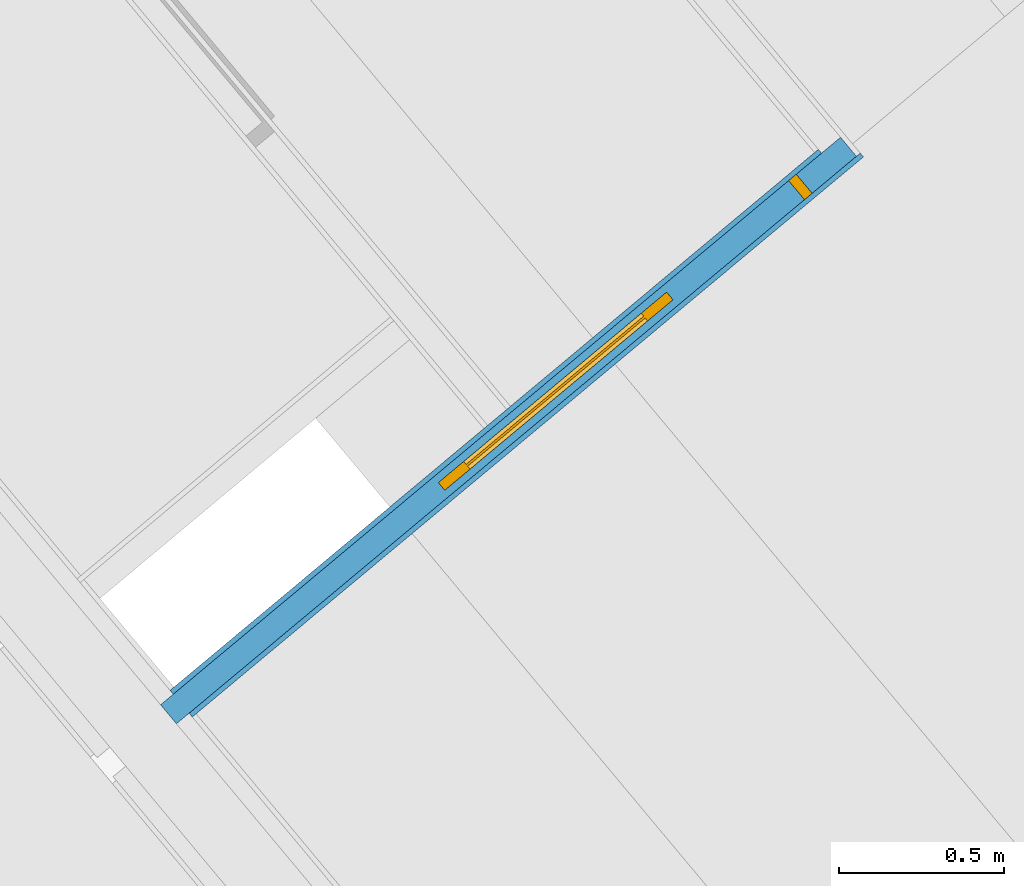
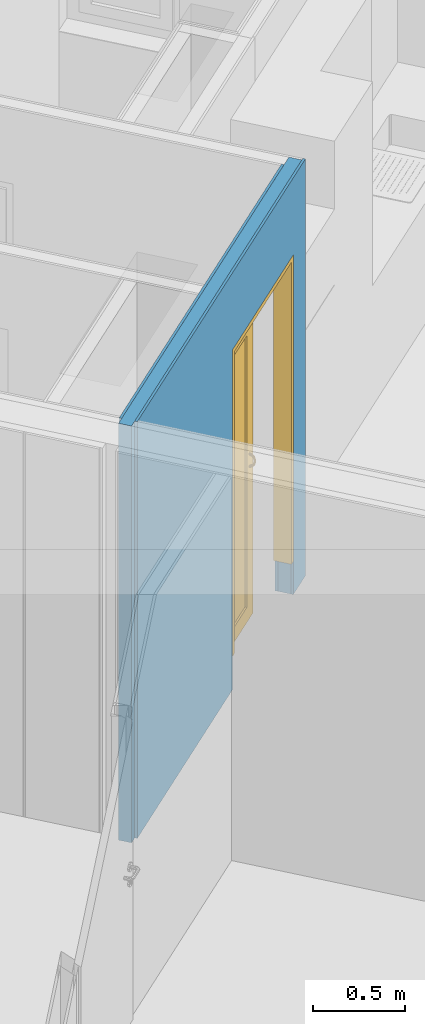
# One storey, part 13 of 67: 3 building element parts, 1 door, 1 opening, 1 element without a shape of its own.
"""IFC4 building model written with IfcOpenShell, lengths in metres."""

from ifc_helpers import new_model, entity, si_unit, converted_unit, derived_unit, direction, frame, origin_with_axes, place, context, subcontext, project, spatial, polygons, source, transform, mapped, material, type_object, element, fill, aggregate, save


model = new_model("IFC4")

# Units and contexts
model_context = context("Model", 3, precision=1e-05, world=origin_with_axes(), true_north=direction((0.0, 1.0)))
body_context = subcontext(model_context, "Body", "Model", "MODEL_VIEW")
ifc_project = project(units=[si_unit("LENGTHUNIT", "METRE"), si_unit("AREAUNIT", "SQUARE_METRE"), si_unit("VOLUMEUNIT", "CUBIC_METRE"), converted_unit("PLANEANGLEUNIT", "DEGREE", entity("IfcPlaneAngleMeasure", 0.0174532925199), si_unit("PLANEANGLEUNIT", "RADIAN"), dimensions=[0, 0, 0, 0, 0, 0, 0]), converted_unit("TIMEUNIT", "Year", entity("IfcTimeMeasure", 31556926.0), si_unit("TIMEUNIT", "SECOND"), dimensions=[0, 0, 1, 0, 0, 0, 0]), si_unit("MASSUNIT", "GRAM", prefix="KILO"), si_unit("THERMODYNAMICTEMPERATUREUNIT", "DEGREE_CELSIUS"), si_unit("LUMINOUSINTENSITYUNIT", "LUMEN"), si_unit("ENERGYUNIT", "JOULE", prefix="MEGA"), derived_unit("THERMALCONDUCTANCEUNIT", [(si_unit("POWERUNIT", "WATT"), 1), (si_unit("LENGTHUNIT", "METRE"), -1), (si_unit("THERMODYNAMICTEMPERATUREUNIT", "KELVIN"), -1)]), derived_unit("SPECIFICHEATCAPACITYUNIT", [(si_unit("ENERGYUNIT", "JOULE"), 1), (si_unit("MASSUNIT", "GRAM", prefix="KILO"), -1), (si_unit("THERMODYNAMICTEMPERATUREUNIT", "KELVIN"), -1)]), derived_unit("MASSDENSITYUNIT", [(si_unit("MASSUNIT", "GRAM", prefix="KILO"), 1), (si_unit("VOLUMEUNIT", "CUBIC_METRE"), -1)])], contexts=[model_context])

# Site, building, storey
site_placement = place(None, frame((-0.00153261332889, -0.00661245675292, 0.0), z_axis=(0.0, 0.0, 1.0), x_axis=(1.0, 0.0, 0.0)))
site = spatial("IfcSite", under=ifc_project, at=site_placement, Name="Site", CompositionType="ELEMENT")
building_placement = place(site_placement, origin_with_axes())
building = spatial("IfcBuilding", under=site, at=building_placement, Name="Building", CompositionType="ELEMENT")
storey_placement = place(building_placement, frame((0.0, 0.0, -0.22), z_axis=(0.0, 0.0, 1.0), x_axis=(1.0, 0.0, 0.0)))
storey = spatial("IfcBuildingStorey", under=building, at=storey_placement, Name="EG", CompositionType="ELEMENT", Elevation=-0.22)

# Door
door_type = type_object("IfcDoorType", Name="Schiebetür 02 1-Fl 26", OperationType="SLIDING_TO_RIGHT", PredefinedType="NOTDEFINED")
shared_shape = source(origin_with_axes(), body_context, "Body", "Tessellation", [
    polygons([(-0.48, 0.0, 0.0), (-0.48, 0.0, 2.03), (0.48, 0.0, 2.03), (0.48, 0.0, 0.0), (0.45, 0.0, 0.0), (0.45, 0.0, 2.0), (-0.45, 0.0, 2.0), (-0.45, 0.0, 0.0)], [[[1, 2, 3, 4, 5, 6, 7, 8]]], closed=False),
    polygons([(-0.45, -0.09, 0.0), (-0.45, -0.09, 2.0), (-0.45, -0.105, 2.0), (-0.45, -0.105, 0.0), (-0.48, -0.09, 0.0), (-0.48, -0.09, 2.0), (-0.48, -0.015, 2.0), (-0.45, -0.015, 2.0), (-0.45, 0.0, 2.0), (0.45, 0.0, 2.0), (0.45, -0.105, 2.0), (0.48, -0.105, 0.0), (0.48, -0.105, 2.03), (-0.48, -0.105, 2.03), (-0.48, -0.105, 0.0), (0.45, -0.105, 0.0), (-0.48, 0.0, 2.03), (-0.48, 0.0, 0.0), (-0.48, -0.015, 0.0), (-0.45, -0.015, 0.0), (-0.45, 0.0, 0.0), (0.48, 0.0, 2.03), (0.48, 0.0, 0.0), (0.45, 0.0, 0.0)], [[[1, 2, 3, 4]], [[2, 1, 5, 6]], [[2, 6, 7, 8, 9, 10, 11, 3]], [[12, 13, 14, 15, 4, 3, 11, 16]], [[5, 1, 4, 15]], [[6, 5, 15, 14, 17, 18, 19, 7]], [[20, 8, 7, 19]], [[8, 20, 21, 9]], [[10, 9, 21, 18, 17, 22, 23, 24]], [[24, 16, 11, 10]], [[22, 13, 12, 23]], [[17, 14, 13, 22]], [[23, 12, 16, 24]], [[20, 19, 18, 21]]], closed=True),
    polygons([(-0.48, -0.105, 0.0), (-0.48, -0.105, 2.03), (0.48, -0.105, 2.03), (0.48, -0.105, 0.0), (0.45, -0.105, 0.0), (0.45, -0.105, 2.0), (-0.45, -0.105, 2.0), (-0.45, -0.105, 0.0)], [[[1, 2, 3, 4, 5, 6, 7, 8]]], closed=False),
    polygons([(-0.94995, -0.0375, 0.1), (-0.84995, -0.0375, 0.1), (-0.84995, -0.0675, 0.1), (-0.94995, -0.0675, 0.1), (-0.94995, -0.0375, 1.8999), (-0.84995, -0.0375, 1.8999), (-0.84995, -0.0675, 1.8999), (-0.94995, -0.0675, 1.8999)], [[[1, 2, 3, 4]], [[1, 5, 6, 2]], [[2, 6, 7, 3]], [[4, 3, 7, 8]], [[5, 1, 4, 8]], [[6, 5, 8, 7]]], closed=True),
    polygons([(-0.05005, -0.0375, 1.8999), (-0.15005, -0.0375, 1.8999), (-0.15005, -0.0675, 1.8999), (-0.05005, -0.0675, 1.8999), (-0.05005, -0.0375, 0.1), (-0.15005, -0.0375, 0.1), (-0.15005, -0.0675, 0.1), (-0.05005, -0.0675, 0.1)], [[[1, 2, 3, 4]], [[1, 5, 6, 2]], [[2, 6, 7, 3]], [[4, 3, 7, 8]], [[5, 1, 4, 8]], [[6, 5, 8, 7]]], closed=True),
    polygons([(-0.05005, -0.0375, 0.0), (-0.05005, -0.0375, 0.1), (-0.05005, -0.0675, 0.1), (-0.05005, -0.0675, 0.0), (-0.94995, -0.0375, 0.0), (-0.94995, -0.0375, 0.1), (-0.84995, -0.0375, 0.1), (-0.15005, -0.0375, 0.1), (-0.15005, -0.0675, 0.1), (-0.84995, -0.0675, 0.1), (-0.94995, -0.0675, 0.1), (-0.94995, -0.0675, 0.0)], [[[1, 2, 3, 4]], [[1, 5, 6, 7, 8, 2]], [[2, 8, 9, 3]], [[4, 3, 9, 10, 11, 12]], [[5, 1, 4, 12]], [[6, 5, 12, 11]], [[7, 6, 11, 10]], [[8, 7, 10, 9]]], closed=True),
    polygons([(-0.94995, -0.0375, 1.9999), (-0.94995, -0.0375, 1.8999), (-0.94995, -0.0675, 1.8999), (-0.94995, -0.0675, 1.9999), (-0.05005, -0.0375, 1.9999), (-0.05005, -0.0375, 1.8999), (-0.15005, -0.0375, 1.8999), (-0.84995, -0.0375, 1.8999), (-0.84995, -0.0675, 1.8999), (-0.15005, -0.0675, 1.8999), (-0.05005, -0.0675, 1.8999), (-0.05005, -0.0675, 1.9999)], [[[1, 2, 3, 4]], [[1, 5, 6, 7, 8, 2]], [[2, 8, 9, 3]], [[4, 3, 9, 10, 11, 12]], [[5, 1, 4, 12]], [[6, 5, 12, 11]], [[7, 6, 11, 10]], [[8, 7, 10, 9]]], closed=True),
    polygons([(-0.84995, -0.049, 0.1), (-0.15005, -0.049, 0.1), (-0.15005, -0.056, 0.1), (-0.84995, -0.056, 0.1), (-0.84995, -0.049, 1.8999), (-0.15005, -0.049, 1.8999), (-0.15005, -0.056, 1.8999), (-0.84995, -0.056, 1.8999)], [[[1, 2, 3, 4]], [[1, 5, 6, 2]], [[2, 6, 7, 3]], [[4, 3, 7, 8]], [[5, 1, 4, 8]], [[6, 5, 8, 7]]], closed=True),
    polygons([(-0.11705, -0.0825, 1.08598076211), (-0.116112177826, -0.08425, 1.08901185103), (-0.116112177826, -0.0675, 1.0935), (-0.11705, -0.0675, 1.09), (-0.11705, -0.0934807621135, 1.075), (-0.116112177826, -0.0965118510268, 1.07675), (-0.11355, -0.0855310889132, 1.09123076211), (-0.11355, -0.0675, 1.09606217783), (-0.11005, -0.0675, 1.097), (-0.10655, -0.0675, 1.09606217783), (-0.103987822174, -0.0675, 1.0935), (-0.10305, -0.0675, 1.09), (-0.103987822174, -0.0675, 1.0865), (-0.10655, -0.0675, 1.08393782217), (-0.11005, -0.0675, 1.083), (-0.11355, -0.0675, 1.08393782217), (-0.116112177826, -0.0675, 1.0865), (-0.116112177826, -0.08075, 1.0829496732), (-0.11705, -0.0975, 1.06), (-0.116112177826, -0.101, 1.06), (-0.11355, -0.0987307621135, 1.07803108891), (-0.116112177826, -0.0904496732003, 1.07325), (-0.11005, -0.086, 1.09204293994), (-0.10655, -0.0855310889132, 1.09123076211), (-0.103987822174, -0.08425, 1.08901185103), (-0.10305, -0.0825, 1.08598076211), (-0.103987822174, -0.08075, 1.0829496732), (-0.10655, -0.0794689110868, 1.08073076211), (-0.11005, -0.079, 1.07991858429), (-0.11355, -0.0794689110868, 1.08073076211), (-0.116112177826, -0.094, 1.06), (-0.11355, -0.0914378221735, 1.06), (-0.11005, -0.0905, 1.06), (-0.10655, -0.0914378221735, 1.06), (-0.103987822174, -0.094, 1.06), (-0.10305, -0.0975, 1.06), (-0.103987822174, -0.101, 1.06), (-0.10655, -0.103562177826, 1.06), (-0.11005, -0.1045, 1.06), (-0.11355, -0.103562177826, 1.06), (-0.11005, -0.09954293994, 1.0785), (-0.11355, -0.0882307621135, 1.07196891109), (-0.10655, -0.0987307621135, 1.07803108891), (-0.103987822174, -0.0965118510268, 1.07675), (-0.10305, -0.0934807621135, 1.075), (-0.103987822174, -0.0904496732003, 1.07325), (-0.10655, -0.0882307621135, 1.07196891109), (-0.11005, -0.087418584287, 1.0715)], [[[1, 2, 3, 4]], [[5, 6, 2, 1]], [[2, 7, 8, 3]], [[4, 3, 8, 9, 10, 11, 12, 13, 14, 15, 16, 17]], [[18, 1, 4, 17]], [[19, 20, 6, 5]], [[6, 21, 7, 2]], [[22, 5, 1, 18]], [[7, 23, 9, 8]], [[23, 24, 10, 9]], [[24, 25, 11, 10]], [[25, 26, 12, 11]], [[26, 27, 13, 12]], [[27, 28, 14, 13]], [[28, 29, 15, 14]], [[29, 30, 16, 15]], [[30, 18, 17, 16]], [[19, 31, 32, 33, 34, 35, 36, 37, 38, 39, 40, 20]], [[20, 40, 21, 6]], [[31, 19, 5, 22]], [[21, 41, 23, 7]], [[42, 22, 18, 30]], [[41, 43, 24, 23]], [[43, 44, 25, 24]], [[44, 45, 26, 25]], [[45, 46, 27, 26]], [[46, 47, 28, 27]], [[47, 48, 29, 28]], [[48, 42, 30, 29]], [[32, 31, 22, 42]], [[33, 32, 42, 48]], [[34, 33, 48, 47]], [[35, 34, 47, 46]], [[36, 35, 46, 45]], [[37, 36, 45, 44]], [[38, 37, 44, 43]], [[39, 38, 43, 41]], [[40, 39, 41, 21]]], closed=True),
    polygons([(-0.10305, -0.0825, 1.01401923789), (-0.103987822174, -0.08425, 1.01098814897), (-0.103987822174, -0.0675, 1.0065), (-0.10305, -0.0675, 1.01), (-0.10305, -0.0934807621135, 1.025), (-0.103987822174, -0.0965118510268, 1.02325), (-0.10655, -0.0855310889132, 1.00876923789), (-0.10655, -0.0675, 1.00393782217), (-0.11005, -0.0675, 1.003), (-0.11355, -0.0675, 1.00393782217), (-0.116112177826, -0.0675, 1.0065), (-0.11705, -0.0675, 1.01), (-0.116112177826, -0.0675, 1.0135), (-0.11355, -0.0675, 1.01606217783), (-0.11005, -0.0675, 1.017), (-0.10655, -0.0675, 1.01606217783), (-0.103987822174, -0.0675, 1.0135), (-0.103987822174, -0.08075, 1.0170503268), (-0.10305, -0.0975, 1.04), (-0.103987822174, -0.101, 1.04), (-0.10655, -0.0987307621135, 1.02196891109), (-0.103987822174, -0.0904496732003, 1.02675), (-0.11005, -0.086, 1.00795706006), (-0.11355, -0.0855310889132, 1.00876923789), (-0.116112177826, -0.08425, 1.01098814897), (-0.11705, -0.0825, 1.01401923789), (-0.116112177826, -0.08075, 1.0170503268), (-0.11355, -0.0794689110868, 1.01926923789), (-0.11005, -0.079, 1.02008141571), (-0.10655, -0.0794689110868, 1.01926923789), (-0.103987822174, -0.094, 1.04), (-0.10655, -0.0914378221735, 1.04), (-0.11005, -0.0905, 1.04), (-0.11355, -0.0914378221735, 1.04), (-0.116112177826, -0.094, 1.04), (-0.11705, -0.0975, 1.04), (-0.116112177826, -0.101, 1.04), (-0.11355, -0.103562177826, 1.04), (-0.11005, -0.1045, 1.04), (-0.10655, -0.103562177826, 1.04), (-0.11005, -0.09954293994, 1.0215), (-0.10655, -0.0882307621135, 1.02803108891), (-0.11355, -0.0987307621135, 1.02196891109), (-0.116112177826, -0.0965118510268, 1.02325), (-0.11705, -0.0934807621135, 1.025), (-0.116112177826, -0.0904496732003, 1.02675), (-0.11355, -0.0882307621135, 1.02803108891), (-0.11005, -0.087418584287, 1.0285)], [[[1, 2, 3, 4]], [[5, 6, 2, 1]], [[2, 7, 8, 3]], [[4, 3, 8, 9, 10, 11, 12, 13, 14, 15, 16, 17]], [[18, 1, 4, 17]], [[19, 20, 6, 5]], [[6, 21, 7, 2]], [[22, 5, 1, 18]], [[7, 23, 9, 8]], [[23, 24, 10, 9]], [[24, 25, 11, 10]], [[25, 26, 12, 11]], [[26, 27, 13, 12]], [[27, 28, 14, 13]], [[28, 29, 15, 14]], [[29, 30, 16, 15]], [[30, 18, 17, 16]], [[19, 31, 32, 33, 34, 35, 36, 37, 38, 39, 40, 20]], [[20, 40, 21, 6]], [[31, 19, 5, 22]], [[21, 41, 23, 7]], [[42, 22, 18, 30]], [[41, 43, 24, 23]], [[43, 44, 25, 24]], [[44, 45, 26, 25]], [[45, 46, 27, 26]], [[46, 47, 28, 27]], [[47, 48, 29, 28]], [[48, 42, 30, 29]], [[32, 31, 22, 42]], [[33, 32, 42, 48]], [[34, 33, 48, 47]], [[35, 34, 47, 46]], [[36, 35, 46, 45]], [[37, 36, 45, 44]], [[38, 37, 44, 43]], [[39, 38, 43, 41]], [[40, 39, 41, 21]]], closed=True),
    polygons([(-0.11705, -0.0975, 1.04), (-0.11705, -0.0975, 1.06), (-0.116112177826, -0.094, 1.06), (-0.116112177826, -0.094, 1.04), (-0.116112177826, -0.101, 1.04), (-0.116112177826, -0.101, 1.06), (-0.11355, -0.103562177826, 1.06), (-0.11005, -0.1045, 1.06), (-0.10655, -0.103562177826, 1.06), (-0.103987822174, -0.101, 1.06), (-0.10305, -0.0975, 1.06), (-0.103987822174, -0.094, 1.06), (-0.10655, -0.0914378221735, 1.06), (-0.11005, -0.0905, 1.06), (-0.11355, -0.0914378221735, 1.06), (-0.11355, -0.0914378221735, 1.04), (-0.11005, -0.0905, 1.04), (-0.10655, -0.0914378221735, 1.04), (-0.103987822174, -0.094, 1.04), (-0.10305, -0.0975, 1.04), (-0.103987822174, -0.101, 1.04), (-0.10655, -0.103562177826, 1.04), (-0.11005, -0.1045, 1.04), (-0.11355, -0.103562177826, 1.04)], [[[1, 2, 3, 4]], [[5, 6, 2, 1]], [[2, 6, 7, 8, 9, 10, 11, 12, 13, 14, 15, 3]], [[4, 3, 15, 16]], [[1, 4, 16, 17, 18, 19, 20, 21, 22, 23, 24, 5]], [[24, 7, 6, 5]], [[23, 8, 7, 24]], [[22, 9, 8, 23]], [[21, 10, 9, 22]], [[20, 11, 10, 21]], [[19, 12, 11, 20]], [[18, 13, 12, 19]], [[17, 14, 13, 18]], [[16, 15, 14, 17]]], closed=True),
    polygons([(-0.11705, -0.0225, 1.08598076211), (-0.11705, -0.0375, 1.09), (-0.116112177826, -0.0375, 1.0935), (-0.116112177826, -0.02075, 1.08901185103), (-0.116112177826, -0.02425, 1.0829496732), (-0.116112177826, -0.0375, 1.0865), (-0.11355, -0.0375, 1.08393782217), (-0.11005, -0.0375, 1.083), (-0.10655, -0.0375, 1.08393782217), (-0.103987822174, -0.0375, 1.0865), (-0.10305, -0.0375, 1.09), (-0.103987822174, -0.0375, 1.0935), (-0.10655, -0.0375, 1.09606217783), (-0.11005, -0.0375, 1.097), (-0.11355, -0.0375, 1.09606217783), (-0.11355, -0.0194689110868, 1.09123076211), (-0.11705, -0.0115192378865, 1.075), (-0.116112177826, -0.00848814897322, 1.07675), (-0.11355, -0.0255310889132, 1.08073076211), (-0.116112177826, -0.0145503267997, 1.07325), (-0.11005, -0.026, 1.07991858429), (-0.10655, -0.0255310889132, 1.08073076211), (-0.103987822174, -0.02425, 1.0829496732), (-0.10305, -0.0225, 1.08598076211), (-0.103987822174, -0.02075, 1.08901185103), (-0.10655, -0.0194689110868, 1.09123076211), (-0.11005, -0.019, 1.09204293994), (-0.11355, -0.00626923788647, 1.07803108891), (-0.11705, -0.0075, 1.06), (-0.116112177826, -0.004, 1.06), (-0.11355, -0.0167692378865, 1.07196891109), (-0.116112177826, -0.011, 1.06), (-0.11005, -0.017581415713, 1.0715), (-0.10655, -0.0167692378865, 1.07196891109), (-0.103987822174, -0.0145503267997, 1.07325), (-0.10305, -0.0115192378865, 1.075), (-0.103987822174, -0.00848814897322, 1.07675), (-0.10655, -0.00626923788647, 1.07803108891), (-0.11005, -0.00545706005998, 1.0785), (-0.11355, -0.00143782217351, 1.06), (-0.11005, -0.0005, 1.06), (-0.10655, -0.00143782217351, 1.06), (-0.103987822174, -0.004, 1.06), (-0.10305, -0.0075, 1.06), (-0.103987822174, -0.011, 1.06), (-0.10655, -0.0135621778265, 1.06), (-0.11005, -0.0145, 1.06), (-0.11355, -0.0135621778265, 1.06)], [[[1, 2, 3, 4]], [[5, 6, 2, 1]], [[2, 6, 7, 8, 9, 10, 11, 12, 13, 14, 15, 3]], [[4, 3, 15, 16]], [[17, 1, 4, 18]], [[19, 7, 6, 5]], [[20, 5, 1, 17]], [[21, 8, 7, 19]], [[22, 9, 8, 21]], [[23, 10, 9, 22]], [[24, 11, 10, 23]], [[25, 12, 11, 24]], [[26, 13, 12, 25]], [[27, 14, 13, 26]], [[16, 15, 14, 27]], [[18, 4, 16, 28]], [[29, 17, 18, 30]], [[31, 19, 5, 20]], [[32, 20, 17, 29]], [[33, 21, 19, 31]], [[34, 22, 21, 33]], [[35, 23, 22, 34]], [[36, 24, 23, 35]], [[37, 25, 24, 36]], [[38, 26, 25, 37]], [[39, 27, 26, 38]], [[28, 16, 27, 39]], [[30, 18, 28, 40]], [[29, 30, 40, 41, 42, 43, 44, 45, 46, 47, 48, 32]], [[48, 31, 20, 32]], [[47, 33, 31, 48]], [[46, 34, 33, 47]], [[45, 35, 34, 46]], [[44, 36, 35, 45]], [[43, 37, 36, 44]], [[42, 38, 37, 43]], [[41, 39, 38, 42]], [[40, 28, 39, 41]]], closed=True),
    polygons([(-0.10305, -0.0225, 1.01401923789), (-0.10305, -0.0375, 1.01), (-0.103987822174, -0.0375, 1.0065), (-0.103987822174, -0.02075, 1.01098814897), (-0.103987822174, -0.02425, 1.0170503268), (-0.103987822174, -0.0375, 1.0135), (-0.10655, -0.0375, 1.01606217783), (-0.11005, -0.0375, 1.017), (-0.11355, -0.0375, 1.01606217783), (-0.116112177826, -0.0375, 1.0135), (-0.11705, -0.0375, 1.01), (-0.116112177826, -0.0375, 1.0065), (-0.11355, -0.0375, 1.00393782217), (-0.11005, -0.0375, 1.003), (-0.10655, -0.0375, 1.00393782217), (-0.10655, -0.0194689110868, 1.00876923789), (-0.10305, -0.0115192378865, 1.025), (-0.103987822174, -0.00848814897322, 1.02325), (-0.10655, -0.0255310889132, 1.01926923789), (-0.103987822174, -0.0145503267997, 1.02675), (-0.11005, -0.026, 1.02008141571), (-0.11355, -0.0255310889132, 1.01926923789), (-0.116112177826, -0.02425, 1.0170503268), (-0.11705, -0.0225, 1.01401923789), (-0.116112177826, -0.02075, 1.01098814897), (-0.11355, -0.0194689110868, 1.00876923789), (-0.11005, -0.019, 1.00795706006), (-0.10655, -0.00626923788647, 1.02196891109), (-0.10305, -0.0075, 1.04), (-0.103987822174, -0.004, 1.04), (-0.10655, -0.0167692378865, 1.02803108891), (-0.103987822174, -0.011, 1.04), (-0.11005, -0.017581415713, 1.0285), (-0.11355, -0.0167692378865, 1.02803108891), (-0.116112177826, -0.0145503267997, 1.02675), (-0.11705, -0.0115192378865, 1.025), (-0.116112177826, -0.00848814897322, 1.02325), (-0.11355, -0.00626923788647, 1.02196891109), (-0.11005, -0.00545706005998, 1.0215), (-0.10655, -0.00143782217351, 1.04), (-0.11005, -0.0005, 1.04), (-0.11355, -0.00143782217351, 1.04), (-0.116112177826, -0.004, 1.04), (-0.11705, -0.0075, 1.04), (-0.116112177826, -0.011, 1.04), (-0.11355, -0.0135621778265, 1.04), (-0.11005, -0.0145, 1.04), (-0.10655, -0.0135621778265, 1.04)], [[[1, 2, 3, 4]], [[5, 6, 2, 1]], [[2, 6, 7, 8, 9, 10, 11, 12, 13, 14, 15, 3]], [[4, 3, 15, 16]], [[17, 1, 4, 18]], [[19, 7, 6, 5]], [[20, 5, 1, 17]], [[21, 8, 7, 19]], [[22, 9, 8, 21]], [[23, 10, 9, 22]], [[24, 11, 10, 23]], [[25, 12, 11, 24]], [[26, 13, 12, 25]], [[27, 14, 13, 26]], [[16, 15, 14, 27]], [[18, 4, 16, 28]], [[29, 17, 18, 30]], [[31, 19, 5, 20]], [[32, 20, 17, 29]], [[33, 21, 19, 31]], [[34, 22, 21, 33]], [[35, 23, 22, 34]], [[36, 24, 23, 35]], [[37, 25, 24, 36]], [[38, 26, 25, 37]], [[39, 27, 26, 38]], [[28, 16, 27, 39]], [[30, 18, 28, 40]], [[29, 30, 40, 41, 42, 43, 44, 45, 46, 47, 48, 32]], [[48, 31, 20, 32]], [[47, 33, 31, 48]], [[46, 34, 33, 47]], [[45, 35, 34, 46]], [[44, 36, 35, 45]], [[43, 37, 36, 44]], [[42, 38, 37, 43]], [[41, 39, 38, 42]], [[40, 28, 39, 41]]], closed=True),
    polygons([(-0.11705, -0.0075, 1.04), (-0.116112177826, -0.011, 1.04), (-0.116112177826, -0.011, 1.06), (-0.11705, -0.0075, 1.06), (-0.116112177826, -0.004, 1.04), (-0.11355, -0.00143782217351, 1.04), (-0.11005, -0.0005, 1.04), (-0.10655, -0.00143782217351, 1.04), (-0.103987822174, -0.004, 1.04), (-0.10305, -0.0075, 1.04), (-0.103987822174, -0.011, 1.04), (-0.10655, -0.0135621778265, 1.04), (-0.11005, -0.0145, 1.04), (-0.11355, -0.0135621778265, 1.04), (-0.11355, -0.0135621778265, 1.06), (-0.11005, -0.0145, 1.06), (-0.10655, -0.0135621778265, 1.06), (-0.103987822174, -0.011, 1.06), (-0.10305, -0.0075, 1.06), (-0.103987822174, -0.004, 1.06), (-0.10655, -0.00143782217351, 1.06), (-0.11005, -0.0005, 1.06), (-0.11355, -0.00143782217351, 1.06), (-0.116112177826, -0.004, 1.06)], [[[1, 2, 3, 4]], [[1, 5, 6, 7, 8, 9, 10, 11, 12, 13, 14, 2]], [[2, 14, 15, 3]], [[4, 3, 15, 16, 17, 18, 19, 20, 21, 22, 23, 24]], [[5, 1, 4, 24]], [[6, 5, 24, 23]], [[7, 6, 23, 22]], [[8, 7, 22, 21]], [[9, 8, 21, 20]], [[10, 9, 20, 19]], [[11, 10, 19, 18]], [[12, 11, 18, 17]], [[13, 12, 17, 16]], [[14, 13, 16, 15]]], closed=True),
])
wall_placement = place(storey_placement, frame((4.75634479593, 20.7201278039, 0.0), z_axis=(0.0, 0.0, 1.0), x_axis=(0.767768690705, 0.640727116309, 0.0)))
opening_placement = place(wall_placement, frame((2.0266659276, 0.0, 0.22), z_axis=(0.0, 0.0, 1.0), x_axis=(1.0, 0.0, 0.0)))
door_placement = place(opening_placement, frame((-0.45, 0.0, 0.0), z_axis=(0.0, 0.0, 1.0), x_axis=(1.0, 0.0, 0.0)))
door = element("IfcDoor", 1, at=door_placement, inside=storey, type_object=door_type, Name="Tür-001", OverallHeight=2.25, OverallWidth=0.96, PredefinedType="NOTDEFINED", context=body_context, shape_type="MappedRepresentation", body=[
    mapped(shared_shape, transform((0.45, 0.105, 0.0))),
])

# Wall, opening
wall_type = type_object("IfcWallType", Name="IW LB 01 Leichtbautrennwand einfach 10,5 cm 105", PredefinedType="NOTDEFINED")
wall = element("IfcWall", 2, at=wall_placement, inside=storey, type_object=wall_type, Name="Wand-012", PredefinedType="NOTDEFINED")
opening = element("IfcOpeningElement", 3, at=opening_placement, cuts=wall, Name="Tür-001", context=body_context, identifier="Reference", shape_type="Tessellation", body=[
    polygons([(-0.48, -1.32747549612, -0.22), (-0.48, -1.32747549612, 2.03), (-0.48, 1.43247549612, 2.03), (-0.48, 1.43247549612, -0.22), (-0.48, 0.09, 2.0), (-0.48, 0.015, 2.0), (-0.48, 0.015, 0.0), (-0.48, 0.09, 0.0), (0.48, -1.32747549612, -0.22), (0.48, -1.32747549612, 2.03), (0.48, 1.43247549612, 2.03), (0.48, 1.43247549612, -0.22), (-1.44, 0.09, 2.0), (-1.44, 0.015, 2.0), (-1.44, 0.015, 0.0), (-1.44, 0.09, 0.0)], [[[1, 2, 3, 4], [5, 6, 7, 8]], [[1, 9, 10, 2]], [[2, 10, 11, 3]], [[11, 12, 4, 3]], [[9, 1, 4, 12]], [[6, 5, 13, 14]], [[7, 6, 14, 15]], [[8, 7, 15, 16]], [[5, 8, 16, 13]], [[10, 9, 12, 11]], [[14, 13, 16, 15]]], closed=True),
])

fill(opening, door)

# Building element part
ifc_material_1 = material(Name="Gipskarton")
building_element_part_1_placement = place(wall_placement, origin_with_axes())
building_element_part_1 = element("IfcBuildingElementPart", 4, at=building_element_part_1_placement, material=ifc_material_1, Name="Gipskarton", PredefinedType="NOTDEFINED", context=body_context, shape_type="Tessellation", body=[
    polygons([(1.5466659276, 0.09, 0.22), (1.5466659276, 0.09, 2.25), (2.5066659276, 0.09, 2.25), (2.5066659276, 0.09, 0.22), (2.50666590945, 0.09, 0.0), (2.6064142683, 0.09, 0.0), (2.6064142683, 0.09, 2.76), (0.0499861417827, 0.09, 2.76), (0.0499861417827, 0.09, 0.0), (1.5466659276, 0.09, 0.0), (1.5466659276, 0.104999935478, 0.22), (1.5466659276, 0.105, 2.25), (2.5066659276, 0.105, 2.25), (2.5066659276, 0.104999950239, 0.22), (2.5066659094, 0.104999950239, 0.0), (2.60640484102, 0.105, 0.0), (2.60640484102, 0.105, 2.76), (1.28733376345, 0.105, 2.76), (0.0649838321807, 0.105, 2.76), (0.0499838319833, 0.105, 2.76), (0.0499838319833, 0.105, 0.0), (1.5466659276, 0.104999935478, 0.0)], [[[1, 2, 3, 4, 5, 6, 7, 8, 9, 10]], [[2, 1, 11, 12]], [[3, 2, 12, 13]], [[4, 3, 13, 14]], [[4, 14, 15, 5]], [[15, 16, 6, 5]], [[7, 6, 16, 17]], [[8, 7, 17, 18, 19, 20]], [[20, 21, 9, 8]], [[10, 9, 21, 22]], [[11, 1, 10, 22]], [[12, 11, 22, 21, 20, 19, 18, 17, 16, 15, 14, 13]]], closed=True),
])

ifc_material_2 = material(Name="Mineralwolle weich")
building_element_part_2_placement = place(wall_placement, origin_with_axes())
building_element_part_2 = element("IfcBuildingElementPart", 5, at=building_element_part_2_placement, material=ifc_material_2, Name="Mineralwolle weich", PredefinedType="NOTDEFINED", context=body_context, shape_type="Tessellation", body=[
    polygons([(0.586665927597, 0.015, 0.22), (0.586665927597, 0.015, 2.22), (1.5466659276, 0.015, 2.22), (1.5466659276, 0.015, 2.25), (2.5066659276, 0.015, 2.25), (2.5066659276, 0.015, 0.22), (2.5066659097, 0.015, 0.0), (2.68146141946, 0.015, 0.0), (2.68146141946, 0.015, 2.76), (0.0, 0.015, 2.76), (0.0, 0.015, 0.0), (1.5466659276, 0.015, 0.0), (1.5466659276, 0.015, 0.22), (0.586665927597, 0.09, 0.22), (0.586665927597, 0.09, 2.22), (1.5466659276, 0.09, 2.22), (1.5466659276, 0.09, 2.25), (2.5066659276, 0.09, 2.25), (2.5066659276, 0.09, 0.22), (2.50666590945, 0.09, 0.0), (2.68141428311, 0.09, 0.0), (2.68141428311, 0.09, 2.76), (0.0, 0.09, 2.76), (0.0, 0.09, 0.0), (1.5466659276, 0.09, 0.0), (1.5466659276, 0.09, 0.22)], [[[1, 2, 3, 4, 5, 6, 7, 8, 9, 10, 11, 12, 13]], [[2, 1, 14, 15]], [[16, 3, 2, 15]], [[3, 16, 17, 4]], [[4, 17, 18, 5]], [[5, 18, 19, 6]], [[19, 20, 7, 6]], [[21, 8, 7, 20]], [[8, 21, 22, 9]], [[10, 9, 22, 23]], [[24, 11, 10, 23]], [[11, 24, 25, 12]], [[26, 13, 12, 25]], [[1, 13, 26, 14]], [[14, 26, 25, 24, 23, 22, 21, 20, 19, 18, 17, 16, 15]]], closed=True),
])

building_element_part_3_placement = place(wall_placement, origin_with_axes())
building_element_part_3 = element("IfcBuildingElementPart", 6, at=building_element_part_3_placement, material=ifc_material_1, Name="Gipskarton", PredefinedType="NOTDEFINED", context=body_context, shape_type="Tessellation", body=[
    polygons([(1.5466659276, 0.0, 0.22), (1.5466659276, 0.0, 2.25), (2.5066659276, 0.0, 2.25), (2.5066659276, 0.0, 0.22), (2.50666590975, 0.0, 0.0), (2.6964708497, 0.0, 0.0), (2.6964708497, 0.0, 2.76), (0.050000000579, 0.0, 2.76), (0.050000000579, 0.0, 0.0), (1.5466659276, 0.0, 0.0), (1.5466659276, 0.015, 0.22), (1.5466659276, 0.015, 2.25), (2.5066659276, 0.015, 2.25), (2.5066659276, 0.015, 0.22), (2.5066659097, 0.015, 0.0), (2.69646142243, 0.015, 0.0), (2.69646142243, 0.015, 2.76), (0.0499976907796, 0.015, 2.76), (0.0499976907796, 0.015, 0.0), (1.5466659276, 0.015, 0.0)], [[[1, 2, 3, 4, 5, 6, 7, 8, 9, 10]], [[2, 1, 11, 12]], [[3, 2, 12, 13]], [[4, 3, 13, 14]], [[4, 14, 15, 5]], [[15, 16, 6, 5]], [[7, 6, 16, 17]], [[17, 18, 8, 7]], [[18, 19, 9, 8]], [[10, 9, 19, 20]], [[11, 1, 10, 20]], [[12, 11, 20, 19, 18, 17, 16, 15, 14, 13]]], closed=True),
])

aggregate(wall, [building_element_part_1, building_element_part_2, building_element_part_3])

save(model, "model.ifc")
